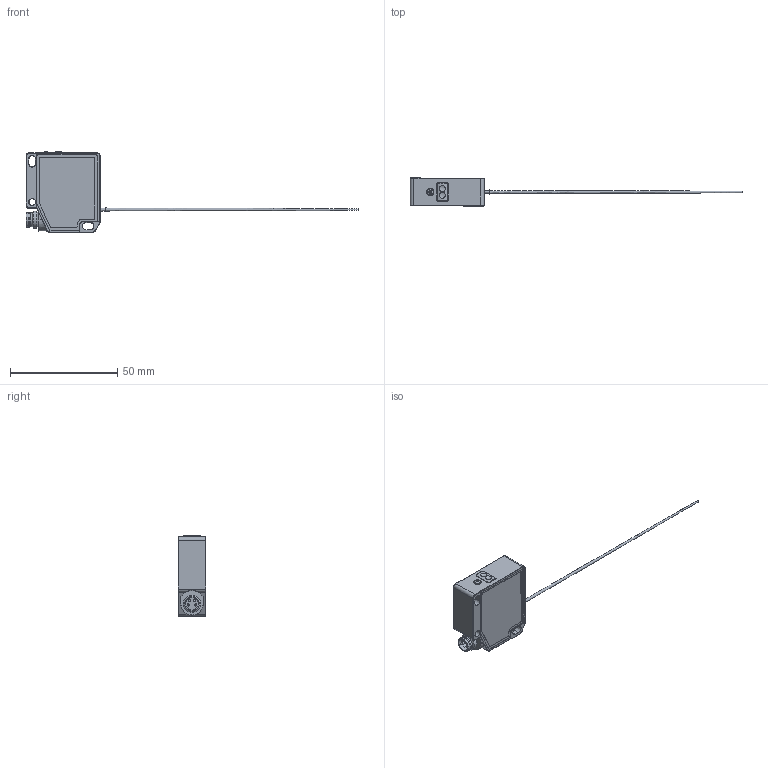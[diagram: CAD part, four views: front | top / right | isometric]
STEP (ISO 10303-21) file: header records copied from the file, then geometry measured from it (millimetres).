
FILE_DESCRIPTION( ( 'Unknown' ), '1' );
FILE_NAME( 'X:/SolidEdge/Models/Dokumentationen/Opto/OWLG/Vereinfachte Modelle/Neutralformate/OWLG-1012-AA-S2.stp', 'Unknown', ( 'Unknown' ), ( 'Unknown' ), 'PSStep 19.0.9', 'Unknown', ' ' );
FILE_SCHEMA( ( 'AUTOMOTIVE_DESIGN { 1 0 10303 214 1 1 1 1 }' ) );
Length unit declared in the file: millimetre
Products named in the file (4): Assem1; OWLG-1012-AA-S2; OWLG-1012-AA-S2-Strahlverlauf-Modul-10166216
Assembly tree (3 placements, depth 2):
  Assem1
    OWLG-1012-AA-S2
    OWLG-1012-AA-S2
    OWLG-1012-AA-S2-Strahlverlauf-Modul-10166216
Bounding box: 154.5 x 13 x 37.55 mm (x, y, z)
Volume: 14368.8 mm3; surface area: 5445.5 mm2
Topology: 3 solids, 3 shells, 260 faces, 656 edges, 414 vertices
Faces by surface type: plane 112, cylinder 95, cone 22, torus 17, bspline 7, sphere 5, revolution 2
Full cylindrical faces by diameter (mm): 0.5 x1, 1 x4, 3.15 x1, 5.77 x1, 6.5 x2, 6.9 x1, 8 x1
Entity records: 10700 total; most frequent: CARTESIAN_POINT 2354, DIRECTION 1339, ORIENTED_EDGE 1232, EDGE_CURVE 616, AXIS2_PLACEMENT_3D 488, VERTEX_POINT 406, LINE 361, VECTOR 361
